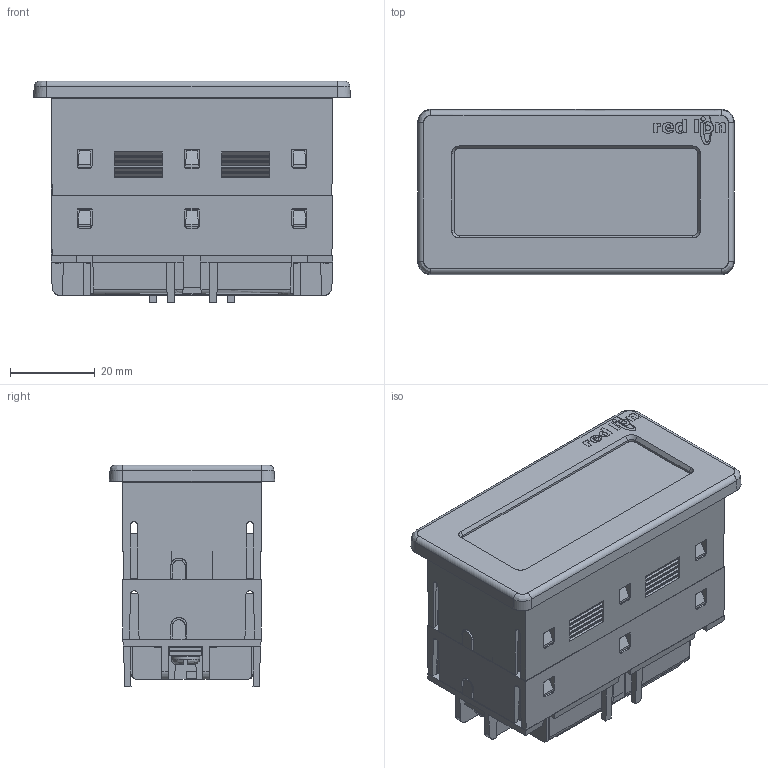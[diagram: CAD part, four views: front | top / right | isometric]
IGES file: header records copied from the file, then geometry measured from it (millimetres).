
Start section: SolidWorks IGES file using analytic representation for surfaces
Global section: file name: W:\Teams\Mech\SE data\Product_Lines\Customer 3D Models (Step files)\CUB4V\IGES\CUB4V-IGES.IGS; native system: SolidWorks 2022; preprocessor: SolidWorks 2022; author: joseph.cirabisi; date: 221216.113954; units: inch
Bounding box: 74.93 x 39.12 x 52.45 mm (x, y, z)
Surface area: 58891.1 mm2 (no closed solid volume)
Topology: 0 solids, 0 shells, 1816 faces, 13150 edges, 13138 vertices
Faces by surface type: bspline 1461, revolution 355
